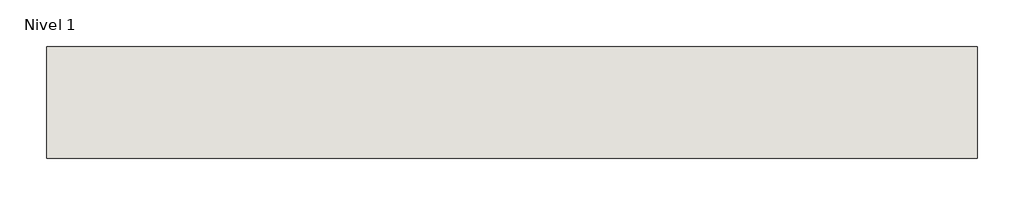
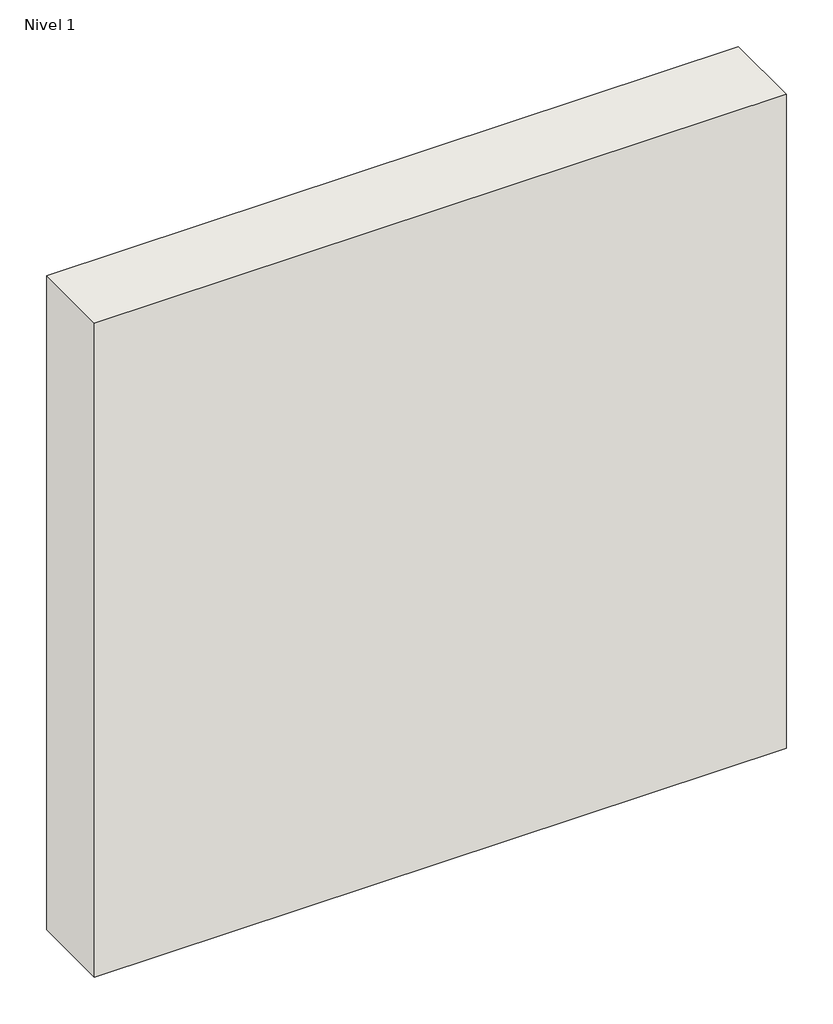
# One storey: 1 wall.
"""IFC4 building model written with IfcOpenShell, lengths in millimetres."""

from ifc_helpers import new_model, si_unit, origin, origin_with_axes, place, context, project, spatial, polyline, outline, extrude, element, save

model = new_model("IFC4")

# Units and contexts
model_context = context("Model", 3, world=origin())
ifc_project = project(units=[si_unit("LENGTHUNIT", "METRE", prefix="MILLI")], contexts=[model_context])

# Site, building, storey
site = spatial("IfcSite", under=ifc_project)
building = spatial("IfcBuilding", under=site)
storey = spatial("IfcBuildingStorey", under=building, Name="Nivel 1", Elevation=0.0)

# Wall
placement = place(None, origin())
element("IfcWall", 1, ObjectType="Megatosco", at=placement, inside=storey, context=model_context, shape_type="SweptSolid", body=[
    extrude(outline(polyline([(1329.5064612, -1981.467047), (329.5064612, -1981.467047), (329.5064612, -1861.467047), (1329.5064612, -1861.467047), (1329.5064612, -1981.467047)])), origin_with_axes(), (0.0, 0.0, 1.0), 1000.0),
])

save(model, "model.ifc")
